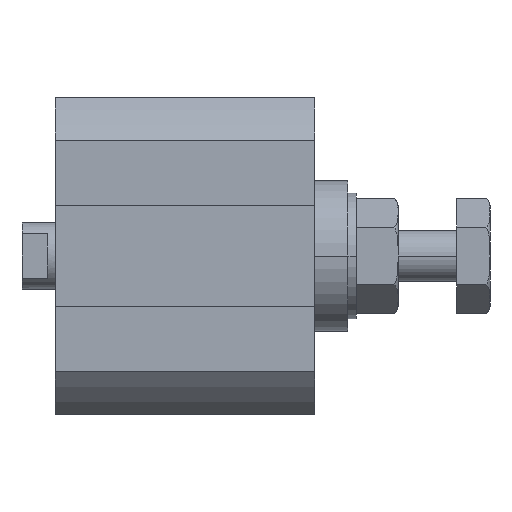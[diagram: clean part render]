
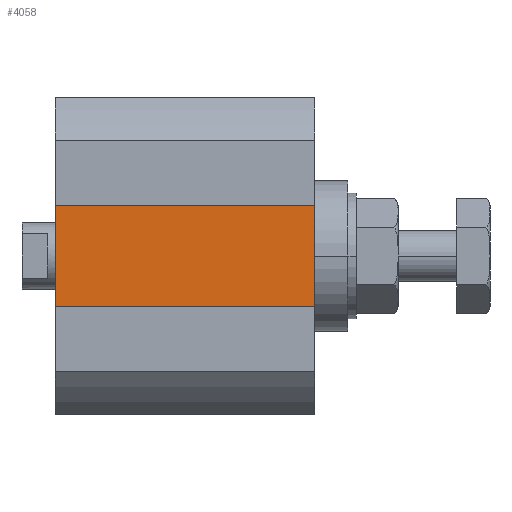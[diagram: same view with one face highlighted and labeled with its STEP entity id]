
A CAD part, left-side view. The second image highlights one B-rep face of the part: STEP entity #4058.
In plain terms, the highlighted planar face has unit normal (-1, 0, 0).
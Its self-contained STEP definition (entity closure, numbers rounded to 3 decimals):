
#57 = VECTOR ( 'NONE', #2377, 1000. ) ;
#130 = FACE_OUTER_BOUND ( 'NONE', #2498, .T. ) ;
#328 = ORIENTED_EDGE ( 'NONE', *, *, #999, .T. ) ;
#352 = CARTESIAN_POINT ( 'NONE',  ( -12.75, -31., 0. ) ) ;
#364 = ORIENTED_EDGE ( 'NONE', *, *, #2810, .T. ) ;
#554 = LINE ( 'NONE', #1595, #3874 ) ;
#787 = DIRECTION ( 'NONE',  ( 0., 0., 1. ) ) ;
#814 = VECTOR ( 'NONE', #787, 1000. ) ;
#915 = LINE ( 'NONE', #2659, #57 ) ;
#991 = EDGE_CURVE ( 'NONE', #4089, #4004, #915, .T. ) ;
#999 = EDGE_CURVE ( 'NONE', #4089, #1584, #2635, .T. ) ;
#1320 = DIRECTION ( 'NONE',  ( 0., 0., 1. ) ) ;
#1410 = VECTOR ( 'NONE', #4124, 1000. ) ;
#1584 = VERTEX_POINT ( 'NONE', #3087 ) ;
#1595 = CARTESIAN_POINT ( 'NONE',  ( -12.75, -31., 7.75 ) ) ;
#1636 = DIRECTION ( 'NONE',  ( 0., 1., 0. ) ) ;
#1943 = CARTESIAN_POINT ( 'NONE',  ( -12.75, -31., -7.75 ) ) ;
#2046 = VERTEX_POINT ( 'NONE', #2967 ) ;
#2255 = CARTESIAN_POINT ( 'NONE',  ( -12.75, 0., -7.75 ) ) ;
#2377 = DIRECTION ( 'NONE',  ( 0., 1., 0. ) ) ;
#2498 = EDGE_LOOP ( 'NONE', ( #3637, #3693, #328, #364 ) ) ;
#2635 = LINE ( 'NONE', #2722, #814 ) ;
#2659 = CARTESIAN_POINT ( 'NONE',  ( -12.75, -31., -7.75 ) ) ;
#2719 = EDGE_CURVE ( 'NONE', #4004, #2046, #3021, .T. ) ;
#2722 = CARTESIAN_POINT ( 'NONE',  ( -12.75, -31., 0. ) ) ;
#2810 = EDGE_CURVE ( 'NONE', #1584, #2046, #554, .T. ) ;
#2863 = DIRECTION ( 'NONE',  ( -1., 0., 0. ) ) ;
#2967 = CARTESIAN_POINT ( 'NONE',  ( -12.75, 0., 7.75 ) ) ;
#3021 = LINE ( 'NONE', #3448, #1410 ) ;
#3087 = CARTESIAN_POINT ( 'NONE',  ( -12.75, -31., 7.75 ) ) ;
#3448 = CARTESIAN_POINT ( 'NONE',  ( -12.75, 0., 0. ) ) ;
#3508 = PLANE ( 'NONE',  #4094 ) ;
#3637 = ORIENTED_EDGE ( 'NONE', *, *, #2719, .F. ) ;
#3693 = ORIENTED_EDGE ( 'NONE', *, *, #991, .F. ) ;
#3874 = VECTOR ( 'NONE', #1636, 1000. ) ;
#4004 = VERTEX_POINT ( 'NONE', #2255 ) ;
#4058 = ADVANCED_FACE ( 'NONE', ( #130 ), #3508, .T. ) ;
#4089 = VERTEX_POINT ( 'NONE', #1943 ) ;
#4094 = AXIS2_PLACEMENT_3D ( 'NONE', #352, #2863, #1320 ) ;
#4124 = DIRECTION ( 'NONE',  ( 0., 0., 1. ) ) ;
